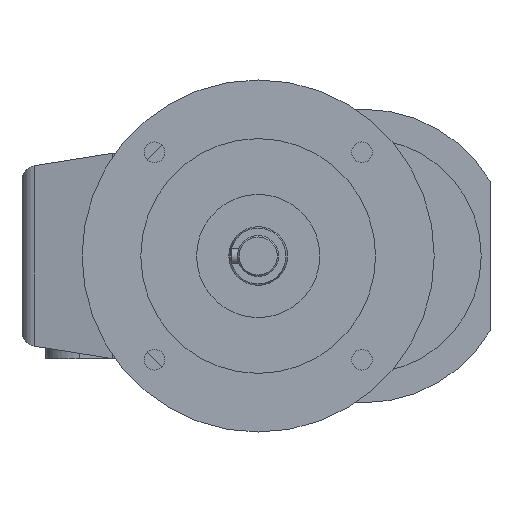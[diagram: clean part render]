
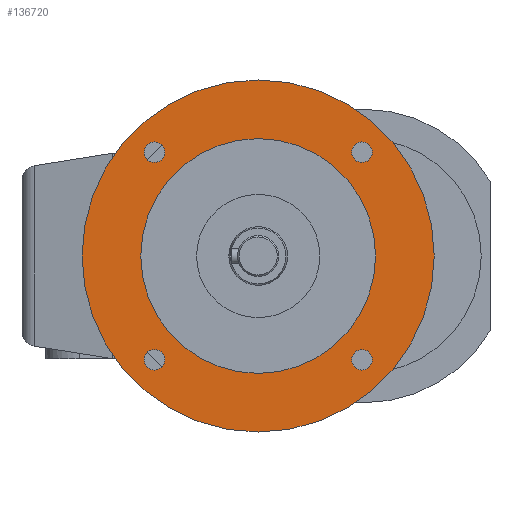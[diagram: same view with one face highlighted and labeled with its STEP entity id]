
A CAD part, left-side view. The second image highlights one B-rep face of the part: STEP entity #136720.
In plain terms, the highlighted planar face has unit normal (-1, 0, 0).
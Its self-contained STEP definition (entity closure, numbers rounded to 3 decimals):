
#135640=CARTESIAN_POINT('',(-283.458,-286.495,
-14.983));
#135650=VERTEX_POINT('',#135640);
#135730=CARTESIAN_POINT('',(-283.458,-286.495,
105.017));
#135740=VERTEX_POINT('',#135730);
#135770=CARTESIAN_POINT('',(-283.458,-286.495,
45.017));
#135780=DIRECTION('',(-1.,0.,0.));
#135790=DIRECTION('',(0.,0.,-1.));
#135800=AXIS2_PLACEMENT_3D('',#135770,#135780,#135790);
#135810=CIRCLE('',#135800,60.);
#135820=EDGE_CURVE('',#135740,#135650,#135810,.T.);
#135870=CARTESIAN_POINT('',(-283.458,-291.912,
30.685));
#135880=DIRECTION('',(-1.,0.,0.));
#135890=DIRECTION('',(0.,0.,-1.));
#135900=AXIS2_PLACEMENT_3D('',#135870,#135880,#135890);
#135910=PLANE('',#135900);
#135920=EDGE_CURVE('',#135650,#135740,#135810,.T.);
#135930=ORIENTED_EDGE('',*,*,#135920,.T.);
#135940=ORIENTED_EDGE('',*,*,#135820,.T.);
#135950=EDGE_LOOP('',(#135940,#135930));
#135960=FACE_OUTER_BOUND('',#135950,.T.);
#135970=CARTESIAN_POINT('',(-283.458,-286.495,
45.017));
#135980=DIRECTION('',(-1.,0.,0.));
#135990=DIRECTION('',(0.,0.,-1.));
#136000=AXIS2_PLACEMENT_3D('',#135970,#135980,#135990);
#136010=CIRCLE('',#136000,40.);
#136020=CARTESIAN_POINT('',(-283.458,-286.495,
85.017));
#136030=VERTEX_POINT('',#136020);
#136040=CARTESIAN_POINT('',(-283.458,-286.495,
5.017));
#136050=VERTEX_POINT('',#136040);
#136060=EDGE_CURVE('',#136030,#136050,#136010,.T.);
#136070=ORIENTED_EDGE('',*,*,#136060,.F.);
#136080=EDGE_CURVE('',#136050,#136030,#136010,.T.);
#136090=ORIENTED_EDGE('',*,*,#136080,.F.);
#136100=EDGE_LOOP('',(#136090,#136070));
#136110=FACE_BOUND('',#136100,.T.);
#136120=CARTESIAN_POINT('',(-283.458,-251.14,
80.373));
#136130=DIRECTION('',(-1.,0.,0.));
#136140=DIRECTION('',(0.,0.,-1.));
#136150=AXIS2_PLACEMENT_3D('',#136120,#136130,#136140);
#136160=CIRCLE('',#136150,3.5);
#136170=CARTESIAN_POINT('',(-283.458,-251.14,
76.873));
#136180=VERTEX_POINT('',#136170);
#136190=CARTESIAN_POINT('',(-283.458,-251.14,
83.873));
#136200=VERTEX_POINT('',#136190);
#136210=EDGE_CURVE('',#136180,#136200,#136160,.T.);
#136220=ORIENTED_EDGE('',*,*,#136210,.F.);
#136230=EDGE_CURVE('',#136200,#136180,#136160,.T.);
#136240=ORIENTED_EDGE('',*,*,#136230,.F.);
#136250=EDGE_LOOP('',(#136240,#136220));
#136260=FACE_BOUND('',#136250,.T.);
#136270=CARTESIAN_POINT('',(-283.458,-321.85,
9.662));
#136280=DIRECTION('',(-1.,0.,0.));
#136290=DIRECTION('',(0.,0.,-1.));
#136300=AXIS2_PLACEMENT_3D('',#136270,#136280,#136290);
#136310=CIRCLE('',#136300,3.5);
#136320=CARTESIAN_POINT('',(-283.458,-321.85,
6.162));
#136330=VERTEX_POINT('',#136320);
#136340=CARTESIAN_POINT('',(-283.458,-321.85,
13.162));
#136350=VERTEX_POINT('',#136340);
#136360=EDGE_CURVE('',#136330,#136350,#136310,.T.);
#136370=ORIENTED_EDGE('',*,*,#136360,.F.);
#136380=EDGE_CURVE('',#136350,#136330,#136310,.T.);
#136390=ORIENTED_EDGE('',*,*,#136380,.F.);
#136400=EDGE_LOOP('',(#136390,#136370));
#136410=FACE_BOUND('',#136400,.T.);
#136420=CARTESIAN_POINT('',(-283.458,-251.14,
9.662));
#136430=DIRECTION('',(-1.,0.,0.));
#136440=DIRECTION('',(0.,0.,-1.));
#136450=AXIS2_PLACEMENT_3D('',#136420,#136430,#136440);
#136460=CIRCLE('',#136450,3.5);
#136470=CARTESIAN_POINT('',(-283.458,-251.14,
6.162));
#136480=VERTEX_POINT('',#136470);
#136490=CARTESIAN_POINT('',(-283.458,-251.14,
13.162));
#136500=VERTEX_POINT('',#136490);
#136510=EDGE_CURVE('',#136480,#136500,#136460,.T.);
#136520=ORIENTED_EDGE('',*,*,#136510,.F.);
#136530=EDGE_CURVE('',#136500,#136480,#136460,.T.);
#136540=ORIENTED_EDGE('',*,*,#136530,.F.);
#136550=EDGE_LOOP('',(#136540,#136520));
#136560=FACE_BOUND('',#136550,.T.);
#136570=CARTESIAN_POINT('',(-283.458,-321.85,
80.373));
#136580=DIRECTION('',(-1.,0.,0.));
#136590=DIRECTION('',(0.,0.,-1.));
#136600=AXIS2_PLACEMENT_3D('',#136570,#136580,#136590);
#136610=CIRCLE('',#136600,3.5);
#136620=CARTESIAN_POINT('',(-283.458,-321.85,
76.873));
#136630=VERTEX_POINT('',#136620);
#136640=CARTESIAN_POINT('',(-283.458,-321.85,
83.873));
#136650=VERTEX_POINT('',#136640);
#136660=EDGE_CURVE('',#136630,#136650,#136610,.T.);
#136670=ORIENTED_EDGE('',*,*,#136660,.F.);
#136680=EDGE_CURVE('',#136650,#136630,#136610,.T.);
#136690=ORIENTED_EDGE('',*,*,#136680,.F.);
#136700=EDGE_LOOP('',(#136690,#136670));
#136710=FACE_BOUND('',#136700,.T.);
#136720=ADVANCED_FACE('',(#135960,#136110,#136260,#136410,#136560,
#136710),#135910,.T.);
